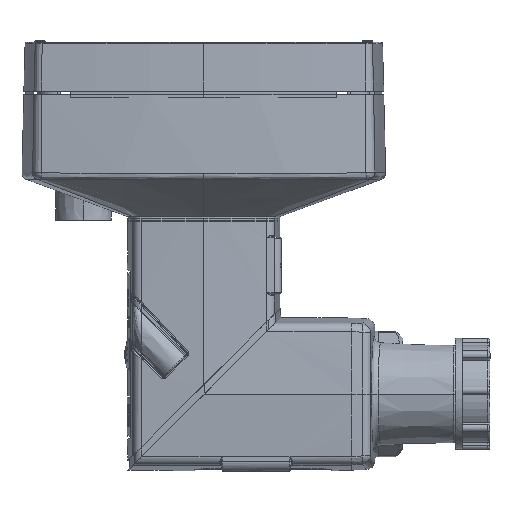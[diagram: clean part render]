
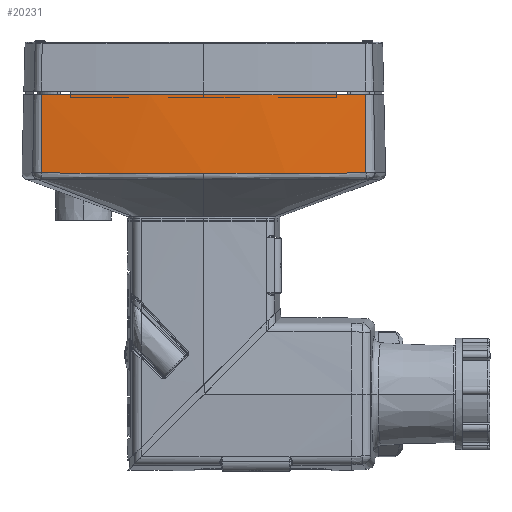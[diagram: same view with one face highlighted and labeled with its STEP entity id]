
A CAD part, left-side view. The second image highlights one B-rep face of the part: STEP entity #20231.
In plain terms, the highlighted conical face has half-angle 1 degrees and reference radius 195 mm.
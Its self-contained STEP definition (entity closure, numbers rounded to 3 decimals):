
#131 = CARTESIAN_POINT ( 'NONE',  ( -29.589, -15.525, 6.703 ) ) ;
#234 = DIRECTION ( 'NONE',  ( 1., 0., 0. ) ) ;
#629 = VERTEX_POINT ( 'NONE', #51630 ) ;
#663 = ORIENTED_EDGE ( 'NONE', *, *, #21340, .F. ) ;
#1477 = EDGE_CURVE ( 'NONE', #58999, #50386, #25575, .T. ) ;
#3134 = CARTESIAN_POINT ( 'NONE',  ( -28.878, 22.653, 6.709 ) ) ;
#3328 = ORIENTED_EDGE ( 'NONE', *, *, #1477, .F. ) ;
#5051 = CARTESIAN_POINT ( 'NONE',  ( -28.611, -23.231, 18. ) ) ;
#5287 = DIRECTION ( 'NONE',  ( -0.017, -0.002, -1. ) ) ;
#5646 = CARTESIAN_POINT ( 'NONE',  ( -30.081, -7.77, 6.698 ) ) ;
#5911 = CARTESIAN_POINT ( 'NONE',  ( -28.806, -23.255, 6.762 ) ) ;
#7390 = CARTESIAN_POINT ( 'NONE',  ( -28.611, 23.231, 18. ) ) ;
#8642 = CARTESIAN_POINT ( 'NONE',  ( -29.003, 21.567, 6.708 ) ) ;
#8689 = B_SPLINE_CURVE_WITH_KNOTS ( 'NONE', 3,
 ( #57761, #28253, #68740, #35928, #41457, #3134, #52399, #8642, #14167, #46912, #63529, #25113, #58010, #19666, #68971, #30685 ),
 .UNSPECIFIED., .F., .F.,
 ( 4, 2, 2, 1, 1, 2, 2, 2, 4 ),
 ( 0., 0., 0.001, 0.001, 0.001, 0.003, 0.006, 0.012, 0.023 ),
 .UNSPECIFIED. ) ;
#10407 = LINE ( 'NONE', #7390, #34826 ) ;
#10932 = CARTESIAN_POINT ( 'NONE',  ( -28.835, -23.014, 6.722 ) ) ;
#11181 = CARTESIAN_POINT ( 'NONE',  ( -30.197, 0., 6.695 ) ) ;
#12243 = DIRECTION ( 'NONE',  ( 0., 0., -1. ) ) ;
#12945 = EDGE_LOOP ( 'NONE', ( #28818, #43044, #66098, #3328, #663 ) ) ;
#14167 = CARTESIAN_POINT ( 'NONE',  ( -29.082, 20.843, 6.707 ) ) ;
#16474 = CARTESIAN_POINT ( 'NONE',  ( -28.864, -22.773, 6.709 ) ) ;
#18948 = B_SPLINE_CURVE_WITH_KNOTS ( 'NONE', 3,
 ( #59870, #70813, #10932, #49220, #16474, #54749, #21943, #60340, #27438, #65811, #32979, #131, #38471, #5646, #43982, #11181 ),
 .UNSPECIFIED., .F., .F.,
 ( 4, 2, 2, 1, 1, 2, 2, 2, 4 ),
 ( 0., 0., 0.001, 0.001, 0.001, 0.003, 0.006, 0.012, 0.023 ),
 .UNSPECIFIED. ) ;
#19666 = CARTESIAN_POINT ( 'NONE',  ( -30.081, 7.77, 6.698 ) ) ;
#20231 = ADVANCED_FACE ( 'NONE', ( #50808 ), #60348, .T. ) ;
#21340 = EDGE_CURVE ( 'NONE', #45686, #58999, #33073, .T. ) ;
#21943 = CARTESIAN_POINT ( 'NONE',  ( -28.913, -22.351, 6.709 ) ) ;
#23162 = CARTESIAN_POINT ( 'NONE',  ( 165., 0., 18. ) ) ;
#23395 = DIRECTION ( 'NONE',  ( 1., 0., 0. ) ) ;
#24070 = AXIS2_PLACEMENT_3D ( 'NONE', #23162, #61818, #23395 ) ;
#24110 = EDGE_CURVE ( 'NONE', #45686, #629, #10407, .T. ) ;
#25113 = CARTESIAN_POINT ( 'NONE',  ( -29.589, 15.525, 6.703 ) ) ;
#25575 = LINE ( 'NONE', #5051, #27308 ) ;
#27308 = VECTOR ( 'NONE', #5287, 1000. ) ;
#27438 = CARTESIAN_POINT ( 'NONE',  ( -29.082, -20.843, 6.707 ) ) ;
#28253 = CARTESIAN_POINT ( 'NONE',  ( -28.821, 23.135, 6.74 ) ) ;
#28818 = ORIENTED_EDGE ( 'NONE', *, *, #24110, .T. ) ;
#29170 = DIRECTION ( 'NONE',  ( -0.017, 0.002, -1. ) ) ;
#30178 = EDGE_CURVE ( 'NONE', #629, #33595, #8689, .T. ) ;
#30685 = CARTESIAN_POINT ( 'NONE',  ( -30.197, 0., 6.695 ) ) ;
#32621 = AXIS2_PLACEMENT_3D ( 'NONE', #38563, #12243, #234 ) ;
#32979 = CARTESIAN_POINT ( 'NONE',  ( -29.328, -18.427, 6.705 ) ) ;
#33073 = CIRCLE ( 'NONE', #24070, 195. ) ;
#33595 = VERTEX_POINT ( 'NONE', #54501 ) ;
#34826 = VECTOR ( 'NONE', #29170, 1000. ) ;
#35928 = CARTESIAN_POINT ( 'NONE',  ( -28.857, 22.834, 6.707 ) ) ;
#36172 = CARTESIAN_POINT ( 'NONE',  ( -28.611, -23.231, 18. ) ) ;
#38471 = CARTESIAN_POINT ( 'NONE',  ( -29.733, -13.587, 6.702 ) ) ;
#38563 = CARTESIAN_POINT ( 'NONE',  ( 165., 0., 18. ) ) ;
#41457 = CARTESIAN_POINT ( 'NONE',  ( -28.864, 22.773, 6.709 ) ) ;
#43044 = ORIENTED_EDGE ( 'NONE', *, *, #30178, .T. ) ;
#43982 = CARTESIAN_POINT ( 'NONE',  ( -30.197, -3.885, 6.696 ) ) ;
#45686 = VERTEX_POINT ( 'NONE', #62806 ) ;
#46912 = CARTESIAN_POINT ( 'NONE',  ( -29.234, 19.394, 6.706 ) ) ;
#49220 = CARTESIAN_POINT ( 'NONE',  ( -28.857, -22.834, 6.707 ) ) ;
#50386 = VERTEX_POINT ( 'NONE', #5911 ) ;
#50808 = FACE_OUTER_BOUND ( 'NONE', #12945, .T. ) ;
#51630 = CARTESIAN_POINT ( 'NONE',  ( -28.806, 23.255, 6.762 ) ) ;
#52399 = CARTESIAN_POINT ( 'NONE',  ( -28.913, 22.351, 6.709 ) ) ;
#54501 = CARTESIAN_POINT ( 'NONE',  ( -30.197, 0., 6.695 ) ) ;
#54749 = CARTESIAN_POINT ( 'NONE',  ( -28.878, -22.653, 6.709 ) ) ;
#57761 = CARTESIAN_POINT ( 'NONE',  ( -28.806, 23.255, 6.762 ) ) ;
#58010 = CARTESIAN_POINT ( 'NONE',  ( -29.733, 13.587, 6.702 ) ) ;
#58999 = VERTEX_POINT ( 'NONE', #36172 ) ;
#59870 = CARTESIAN_POINT ( 'NONE',  ( -28.806, -23.255, 6.762 ) ) ;
#60340 = CARTESIAN_POINT ( 'NONE',  ( -29.003, -21.567, 6.708 ) ) ;
#60348 = CONICAL_SURFACE ( 'NONE', #32621, 195., 0.017 ) ;
#61818 = DIRECTION ( 'NONE',  ( 0., 0., 1. ) ) ;
#61985 = EDGE_CURVE ( 'NONE', #50386, #33595, #18948, .T. ) ;
#62806 = CARTESIAN_POINT ( 'NONE',  ( -28.611, 23.231, 18. ) ) ;
#63529 = CARTESIAN_POINT ( 'NONE',  ( -29.328, 18.427, 6.705 ) ) ;
#65811 = CARTESIAN_POINT ( 'NONE',  ( -29.234, -19.394, 6.706 ) ) ;
#66098 = ORIENTED_EDGE ( 'NONE', *, *, #61985, .F. ) ;
#68740 = CARTESIAN_POINT ( 'NONE',  ( -28.835, 23.014, 6.722 ) ) ;
#68971 = CARTESIAN_POINT ( 'NONE',  ( -30.197, 3.885, 6.696 ) ) ;
#70813 = CARTESIAN_POINT ( 'NONE',  ( -28.821, -23.135, 6.74 ) ) ;
